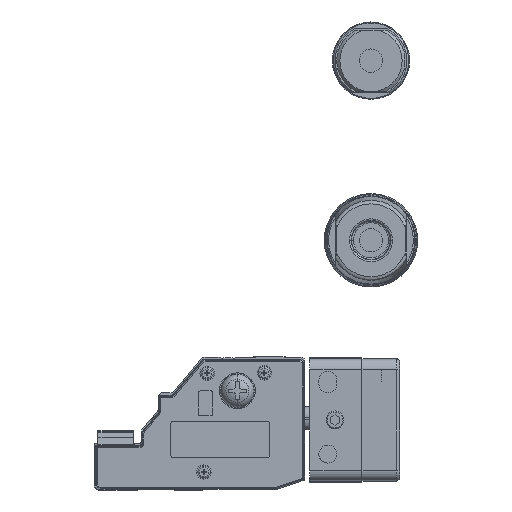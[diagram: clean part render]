
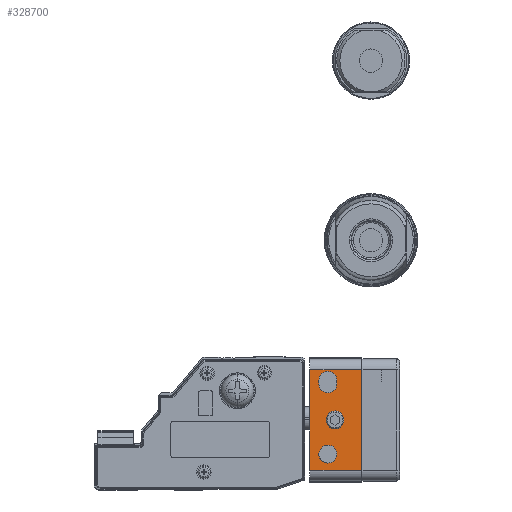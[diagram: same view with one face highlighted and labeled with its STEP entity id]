
A CAD part, left-side view. The second image highlights one B-rep face of the part: STEP entity #328700.
In plain terms, the highlighted planar face has unit normal (-1, 0, 0) as drawn and (0, 0, -1) by its records, which use the part's own axes.
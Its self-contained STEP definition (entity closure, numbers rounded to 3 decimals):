
#327650=CARTESIAN_POINT('',(-201.714,217.373,
0.));
#327660=DIRECTION('',(-0.,-0.,-1.));
#327670=DIRECTION('',(0.,-1.,0.));
#327680=AXIS2_PLACEMENT_3D('',#327650,#327660,#327670);
#327690=PLANE('',#327680);
#327700=CARTESIAN_POINT('',(-191.714,212.373,
0.));
#327710=DIRECTION('',(0.,0.,-1.));
#327720=DIRECTION('',(-1.,0.,0.));
#327730=AXIS2_PLACEMENT_3D('',#327700,#327710,#327720);
#327740=CIRCLE('',#327730,2.5);
#327750=CARTESIAN_POINT('',(-191.714,209.873,
0.));
#327760=VERTEX_POINT('',#327750);
#327770=CARTESIAN_POINT('',(-191.714,214.873,
0.));
#327780=VERTEX_POINT('',#327770);
#327790=EDGE_CURVE('',#327760,#327780,#327740,.T.);
#327800=ORIENTED_EDGE('',*,*,#327790,.F.);
#327810=CARTESIAN_POINT('',(0.,214.873,0.));
#327820=DIRECTION('',(-1.,0.,0.));
#327830=VECTOR('',#327820,1.);
#327840=LINE('',#327810,#327830);
#327850=CARTESIAN_POINT('',(-190.714,214.873,
0.));
#327860=VERTEX_POINT('',#327850);
#327870=EDGE_CURVE('',#327860,#327780,#327840,.T.);
#327880=ORIENTED_EDGE('',*,*,#327870,.T.);
#327890=CARTESIAN_POINT('',(-190.714,212.373,
0.));
#327900=DIRECTION('',(0.,0.,-1.));
#327910=DIRECTION('',(-1.,0.,0.));
#327920=AXIS2_PLACEMENT_3D('',#327890,#327900,#327910);
#327930=CIRCLE('',#327920,2.5);
#327940=CARTESIAN_POINT('',(-190.714,209.873,
0.));
#327950=VERTEX_POINT('',#327940);
#327960=EDGE_CURVE('',#327860,#327950,#327930,.T.);
#327970=ORIENTED_EDGE('',*,*,#327960,.F.);
#327980=CARTESIAN_POINT('',(0.,209.873,0.));
#327990=DIRECTION('',(1.,0.,0.));
#328000=VECTOR('',#327990,1.);
#328010=LINE('',#327980,#328000);
#328020=EDGE_CURVE('',#327760,#327950,#328010,.T.);
#328030=ORIENTED_EDGE('',*,*,#328020,.T.);
#328040=EDGE_LOOP('',(#328030,#327970,#327880,#327800));
#328050=FACE_BOUND('',#328040,.T.);
#328060=CARTESIAN_POINT('',(-171.214,212.373,
0.));
#328070=DIRECTION('',(0.,0.,-1.));
#328080=DIRECTION('',(-1.,0.,0.));
#328090=AXIS2_PLACEMENT_3D('',#328060,#328070,#328080);
#328100=CIRCLE('',#328090,2.5);
#328110=CARTESIAN_POINT('',(-173.714,212.373,
0.));
#328120=VERTEX_POINT('',#328110);
#328130=CARTESIAN_POINT('',(-168.714,212.373,
0.));
#328140=VERTEX_POINT('',#328130);
#328150=EDGE_CURVE('',#328120,#328140,#328100,.T.);
#328160=ORIENTED_EDGE('',*,*,#328150,.F.);
#328170=EDGE_CURVE('',#328140,#328120,#328100,.T.);
#328180=ORIENTED_EDGE('',*,*,#328170,.F.);
#328190=EDGE_LOOP('',(#328180,#328160));
#328200=FACE_BOUND('',#328190,.T.);
#328210=CARTESIAN_POINT('',(-180.714,210.373,
0.));
#328220=DIRECTION('',(0.,0.,-1.));
#328230=DIRECTION('',(-1.,0.,0.));
#328240=AXIS2_PLACEMENT_3D('',#328210,#328220,#328230);
#328250=CIRCLE('',#328240,2.5);
#328260=CARTESIAN_POINT('',(-183.214,210.373,
0.));
#328270=VERTEX_POINT('',#328260);
#328280=CARTESIAN_POINT('',(-178.214,210.373,
0.));
#328290=VERTEX_POINT('',#328280);
#328300=EDGE_CURVE('',#328270,#328290,#328250,.T.);
#328310=ORIENTED_EDGE('',*,*,#328300,.F.);
#328320=EDGE_CURVE('',#328290,#328270,#328250,.T.);
#328330=ORIENTED_EDGE('',*,*,#328320,.F.);
#328340=EDGE_LOOP('',(#328330,#328310));
#328350=FACE_BOUND('',#328340,.T.);
#328360=CARTESIAN_POINT('',(-166.714,-2.,0.));
#328370=DIRECTION('',(0.,1.,0.));
#328380=VECTOR('',#328370,1.);
#328390=LINE('',#328360,#328380);
#328400=CARTESIAN_POINT('',(-166.714,203.073,
0.));
#328410=VERTEX_POINT('',#328400);
#328420=CARTESIAN_POINT('',(-166.714,217.373,
0.));
#328430=VERTEX_POINT('',#328420);
#328440=EDGE_CURVE('',#328410,#328430,#328390,.T.);
#328450=ORIENTED_EDGE('',*,*,#328440,.F.);
#328460=CARTESIAN_POINT('',(0.,217.373,0.));
#328470=DIRECTION('',(-1.,0.,0.));
#328480=VECTOR('',#328470,1.);
#328490=LINE('',#328460,#328480);
#328500=CARTESIAN_POINT('',(-194.714,217.373,
0.));
#328510=VERTEX_POINT('',#328500);
#328520=EDGE_CURVE('',#328430,#328510,#328490,.T.);
#328530=ORIENTED_EDGE('',*,*,#328520,.F.);
#328540=CARTESIAN_POINT('',(-194.714,-2.,0.));
#328550=DIRECTION('',(0.,-1.,0.));
#328560=VECTOR('',#328550,1.);
#328570=LINE('',#328540,#328560);
#328580=CARTESIAN_POINT('',(-194.714,203.073,
0.));
#328590=VERTEX_POINT('',#328580);
#328600=EDGE_CURVE('',#328510,#328590,#328570,.T.);
#328610=ORIENTED_EDGE('',*,*,#328600,.F.);
#328620=CARTESIAN_POINT('',(0.,203.073,0.));
#328630=DIRECTION('',(-1.,0.,0.));
#328640=VECTOR('',#328630,1.);
#328650=LINE('',#328620,#328640);
#328660=EDGE_CURVE('',#328410,#328590,#328650,.T.);
#328670=ORIENTED_EDGE('',*,*,#328660,.T.);
#328680=EDGE_LOOP('',(#328670,#328610,#328530,#328450));
#328690=FACE_OUTER_BOUND('',#328680,.T.);
#328700=ADVANCED_FACE('',(#328050,#328200,#328350,#328690),#327690,.T.);
